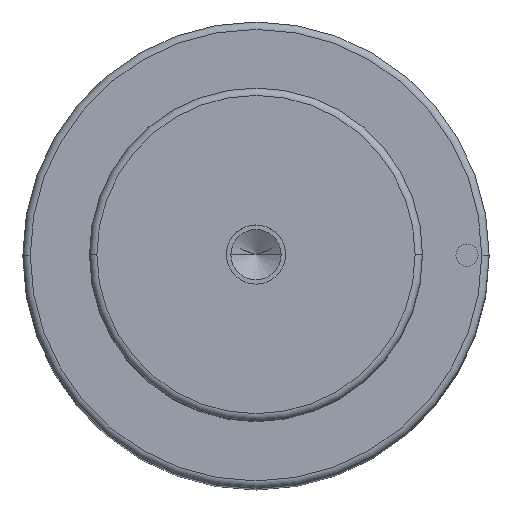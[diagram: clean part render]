
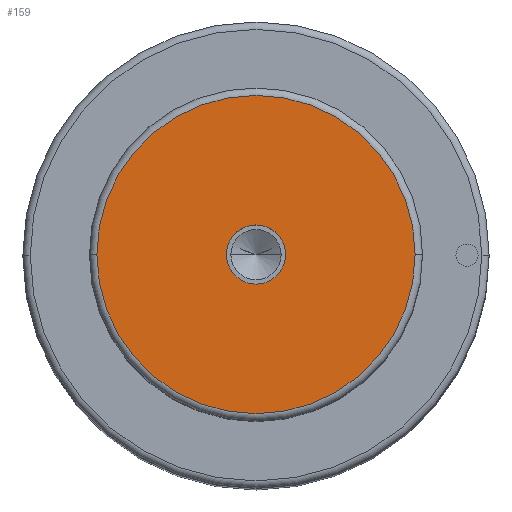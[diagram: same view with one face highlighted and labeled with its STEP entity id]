
A CAD part, top view. The second image highlights one B-rep face of the part: STEP entity #159.
In plain terms, the highlighted planar face has unit normal (0, 0, 1).
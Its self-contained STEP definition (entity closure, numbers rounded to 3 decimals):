
#104=PLANE('',#795);
#113=FACE_BOUND('',#259,.T.);
#114=FACE_BOUND('',#260,.T.);
#159=ADVANCED_FACE('',(#113,#114),#104,.T.);
#259=EDGE_LOOP('',(#395,#396));
#260=EDGE_LOOP('',(#397,#398));
#315=CIRCLE('',#789,4.);
#316=CIRCLE('',#791,4.);
#317=CIRCLE('',#793,21.5);
#318=CIRCLE('',#794,21.5);
#395=ORIENTED_EDGE('',*,*,#629,.F.);
#396=ORIENTED_EDGE('',*,*,#630,.F.);
#397=ORIENTED_EDGE('',*,*,#628,.T.);
#398=ORIENTED_EDGE('',*,*,#626,.T.);
#564=VERTEX_POINT('',#1162);
#565=VERTEX_POINT('',#1164);
#566=VERTEX_POINT('',#1170);
#567=VERTEX_POINT('',#1171);
#626=EDGE_CURVE('',#565,#564,#315,.T.);
#628=EDGE_CURVE('',#564,#565,#316,.T.);
#629=EDGE_CURVE('',#566,#567,#317,.T.);
#630=EDGE_CURVE('',#567,#566,#318,.T.);
#789=AXIS2_PLACEMENT_3D('',#1163,#915,#916);
#791=AXIS2_PLACEMENT_3D('',#1167,#920,#921);
#793=AXIS2_PLACEMENT_3D('',#1169,#924,#925);
#794=AXIS2_PLACEMENT_3D('',#1172,#926,#927);
#795=AXIS2_PLACEMENT_3D('',#1173,#928,#929);
#915=DIRECTION('',(0.,0.,-1.));
#916=DIRECTION('',(0.,1.,0.));
#920=DIRECTION('',(0.,0.,-1.));
#921=DIRECTION('',(0.,-1.,0.));
#924=DIRECTION('',(0.,0.,-1.));
#925=DIRECTION('',(0.,1.,0.));
#926=DIRECTION('',(0.,0.,-1.));
#927=DIRECTION('',(0.,-1.,0.));
#928=DIRECTION('',(0.,0.,1.));
#929=DIRECTION('',(0.,-1.,0.));
#1162=CARTESIAN_POINT('',(-4.,0.,180.));
#1163=CARTESIAN_POINT('',(0.,0.,180.));
#1164=CARTESIAN_POINT('',(4.,0.,180.));
#1167=CARTESIAN_POINT('',(0.,0.,180.));
#1169=CARTESIAN_POINT('',(0.,0.,180.));
#1170=CARTESIAN_POINT('',(21.5,0.,180.));
#1171=CARTESIAN_POINT('',(-21.5,0.,180.));
#1172=CARTESIAN_POINT('',(0.,0.,180.));
#1173=CARTESIAN_POINT('',(0.,0.,180.));
